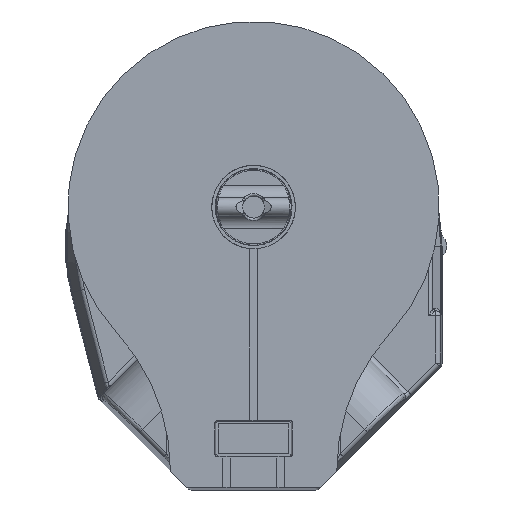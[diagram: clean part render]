
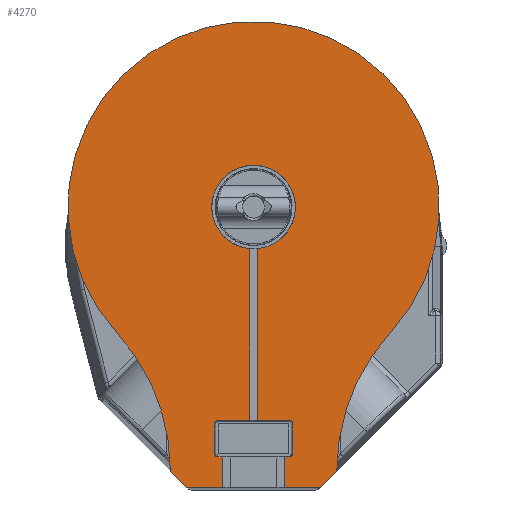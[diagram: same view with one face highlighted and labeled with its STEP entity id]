
A CAD part, top view. The second image highlights one B-rep face of the part: STEP entity #4270.
In plain terms, the highlighted planar face has unit normal (0, 0, 1).
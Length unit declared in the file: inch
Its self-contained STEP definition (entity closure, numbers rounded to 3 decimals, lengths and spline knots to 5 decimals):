
#430=LINE('',#9385,#658);
#441=LINE('',#9429,#669);
#446=LINE('',#9439,#674);
#447=LINE('',#9441,#675);
#448=LINE('',#9443,#676);
#449=LINE('',#9445,#677);
#450=LINE('',#9446,#678);
#451=LINE('',#9447,#679);
#452=LINE('',#9449,#680);
#453=LINE('',#9450,#681);
#454=LINE('',#9452,#682);
#455=LINE('',#9454,#683);
#456=LINE('',#9457,#684);
#457=LINE('',#9459,#685);
#458=LINE('',#9460,#686);
#459=LINE('',#9462,#687);
#658=VECTOR('',#5493,0.40588);
#669=VECTOR('',#5532,0.29606);
#674=VECTOR('',#5539,0.00325);
#675=VECTOR('',#5540,0.29606);
#676=VECTOR('',#5541,0.46638);
#677=VECTOR('',#5542,0.39223);
#678=VECTOR('',#5543,0.06457);
#679=VECTOR('',#5544,0.40588);
#680=VECTOR('',#5545,0.41501);
#681=VECTOR('',#5546,2.21865);
#682=VECTOR('',#5547,2.21869);
#683=VECTOR('',#5548,0.41457);
#684=VECTOR('',#5551,0.06501);
#685=VECTOR('',#5552,0.39223);
#686=VECTOR('',#5553,0.46682);
#687=VECTOR('',#5554,0.00325);
#818=PLANE('',#4680);
#1007=FACE_OUTER_BOUND('',#1242,.T.);
#1242=EDGE_LOOP('',(#3471,#3472,#3473,#3474,#3475,#3476,#3477,#3478,#3479,
#3480,#3481,#3482,#3483,#3484,#3485,#3486,#3487,#3488,#3489,#3490,#3491,
#3492,#3493,#3494));
#1370=ELLIPSE('',#4658,0.03501,0.035);
#1371=ELLIPSE('',#4662,0.03501,0.035);
#1372=ELLIPSE('',#4667,0.03501,0.035);
#1373=ELLIPSE('',#4681,0.03501,0.035);
#1518=CIRCLE('',#4654,0.54123);
#1525=CIRCLE('',#4671,2.40285);
#1529=CIRCLE('',#4677,2.65074);
#1530=CIRCLE('',#4682,2.65074);
#1847=VERTEX_POINT('',#9337);
#1849=VERTEX_POINT('',#9340);
#1852=VERTEX_POINT('',#9348);
#1853=VERTEX_POINT('',#9349);
#1860=VERTEX_POINT('',#9366);
#1861=VERTEX_POINT('',#9367);
#1866=VERTEX_POINT('',#9381);
#1868=VERTEX_POINT('',#9384);
#1870=VERTEX_POINT('',#9390);
#1873=VERTEX_POINT('',#9397);
#1875=VERTEX_POINT('',#9401);
#1880=VERTEX_POINT('',#9415);
#1883=VERTEX_POINT('',#9427);
#1884=VERTEX_POINT('',#9428);
#1888=VERTEX_POINT('',#9438);
#1889=VERTEX_POINT('',#9440);
#1890=VERTEX_POINT('',#9442);
#1891=VERTEX_POINT('',#9444);
#1892=VERTEX_POINT('',#9448);
#1893=VERTEX_POINT('',#9451);
#1894=VERTEX_POINT('',#9453);
#1895=VERTEX_POINT('',#9456);
#1896=VERTEX_POINT('',#9458);
#1897=VERTEX_POINT('',#9461);
#2456=EDGE_CURVE('',#1849,#1847,#1518,.F.);
#2460=EDGE_CURVE('',#1852,#1853,#1370,.T.);
#2468=EDGE_CURVE('',#1860,#1861,#1371,.T.);
#2476=EDGE_CURVE('',#1868,#1866,#430,.T.);
#2479=EDGE_CURVE('',#1870,#1866,#1372,.T.);
#2485=EDGE_CURVE('',#1873,#1875,#1525,.T.);
#2492=EDGE_CURVE('',#1875,#1880,#1529,.T.);
#2496=EDGE_CURVE('',#1883,#1884,#441,.T.);
#2501=EDGE_CURVE('',#1880,#1888,#446,.T.);
#2502=EDGE_CURVE('',#1888,#1889,#447,.T.);
#2503=EDGE_CURVE('',#1889,#1890,#448,.T.);
#2504=EDGE_CURVE('',#1890,#1891,#449,.F.);
#2505=EDGE_CURVE('',#1891,#1853,#450,.F.);
#2506=EDGE_CURVE('',#1852,#1861,#451,.T.);
#2507=EDGE_CURVE('',#1860,#1892,#452,.F.);
#2508=EDGE_CURVE('',#1892,#1849,#453,.T.);
#2509=EDGE_CURVE('',#1847,#1893,#454,.F.);
#2510=EDGE_CURVE('',#1893,#1894,#455,.F.);
#2511=EDGE_CURVE('',#1868,#1894,#1373,.T.);
#2512=EDGE_CURVE('',#1870,#1895,#456,.F.);
#2513=EDGE_CURVE('',#1895,#1896,#457,.T.);
#2514=EDGE_CURVE('',#1896,#1883,#458,.T.);
#2515=EDGE_CURVE('',#1884,#1897,#459,.T.);
#2516=EDGE_CURVE('',#1897,#1873,#1530,.T.);
#3471=ORIENTED_EDGE('',*,*,#2485,.T.);
#3472=ORIENTED_EDGE('',*,*,#2492,.T.);
#3473=ORIENTED_EDGE('',*,*,#2501,.T.);
#3474=ORIENTED_EDGE('',*,*,#2502,.T.);
#3475=ORIENTED_EDGE('',*,*,#2503,.T.);
#3476=ORIENTED_EDGE('',*,*,#2504,.T.);
#3477=ORIENTED_EDGE('',*,*,#2505,.T.);
#3478=ORIENTED_EDGE('',*,*,#2460,.F.);
#3479=ORIENTED_EDGE('',*,*,#2506,.T.);
#3480=ORIENTED_EDGE('',*,*,#2468,.F.);
#3481=ORIENTED_EDGE('',*,*,#2507,.T.);
#3482=ORIENTED_EDGE('',*,*,#2508,.T.);
#3483=ORIENTED_EDGE('',*,*,#2456,.T.);
#3484=ORIENTED_EDGE('',*,*,#2509,.T.);
#3485=ORIENTED_EDGE('',*,*,#2510,.T.);
#3486=ORIENTED_EDGE('',*,*,#2511,.F.);
#3487=ORIENTED_EDGE('',*,*,#2476,.T.);
#3488=ORIENTED_EDGE('',*,*,#2479,.F.);
#3489=ORIENTED_EDGE('',*,*,#2512,.T.);
#3490=ORIENTED_EDGE('',*,*,#2513,.T.);
#3491=ORIENTED_EDGE('',*,*,#2514,.T.);
#3492=ORIENTED_EDGE('',*,*,#2496,.T.);
#3493=ORIENTED_EDGE('',*,*,#2515,.T.);
#3494=ORIENTED_EDGE('',*,*,#2516,.T.);
#4270=ADVANCED_FACE('',(#1007),#818,.F.);
#4654=AXIS2_PLACEMENT_3D('',#9341,#5456,#5457);
#4658=AXIS2_PLACEMENT_3D('',#9350,#5465,#5466);
#4662=AXIS2_PLACEMENT_3D('',#9368,#5479,#5480);
#4667=AXIS2_PLACEMENT_3D('',#9391,#5498,#5499);
#4671=AXIS2_PLACEMENT_3D('',#9403,#5509,#5510);
#4677=AXIS2_PLACEMENT_3D('',#9417,#5524,#5525);
#4680=AXIS2_PLACEMENT_3D('',#9437,#5537,#5538);
#4681=AXIS2_PLACEMENT_3D('',#9455,#5549,#5550);
#4682=AXIS2_PLACEMENT_3D('',#9463,#5555,#5556);
#5456=DIRECTION('center_axis',(0.,0.,
1.));
#5457=DIRECTION('ref_axis',(0.,1.,0.));
#5465=DIRECTION('center_axis',(0.,0.,
1.));
#5466=DIRECTION('ref_axis',(-0.707,-0.707,0.));
#5479=DIRECTION('center_axis',(0.,0.,
1.));
#5480=DIRECTION('ref_axis',(-0.707,0.707,0.));
#5493=DIRECTION('',(0.,-1.,0.));
#5498=DIRECTION('center_axis',(0.,0.,
1.));
#5499=DIRECTION('ref_axis',(0.707,-0.707,0.));
#5509=DIRECTION('center_axis',(0.,0.,
1.));
#5510=DIRECTION('ref_axis',(0.442,0.897,0.));
#5524=DIRECTION('center_axis',(0.,0.,
-1.));
#5525=DIRECTION('ref_axis',(-0.737,-0.675,0.));
#5532=DIRECTION('',(0.707,0.707,0.));
#5537=DIRECTION('center_axis',(0.,0.,
-1.));
#5538=DIRECTION('ref_axis',(0.,-1.,0.));
#5539=DIRECTION('',(0.,-1.,0.));
#5540=DIRECTION('',(0.707,-0.707,0.));
#5541=DIRECTION('',(1.,0.,0.));
#5542=DIRECTION('',(0.,-1.,0.));
#5543=DIRECTION('',(1.,0.,0.));
#5544=DIRECTION('',(0.,1.,0.));
#5545=DIRECTION('',(-1.,0.,0.));
#5546=DIRECTION('',(0.,1.,0.));
#5547=DIRECTION('',(0.,1.,0.));
#5548=DIRECTION('',(-1.,0.,0.));
#5549=DIRECTION('center_axis',(0.,0.,
1.));
#5550=DIRECTION('ref_axis',(0.707,0.707,0.));
#5551=DIRECTION('',(1.,0.,0.));
#5552=DIRECTION('',(0.,-1.,0.));
#5553=DIRECTION('',(1.,0.,0.));
#5554=DIRECTION('',(0.,1.,0.));
#5555=DIRECTION('center_axis',(0.,0.,
-1.));
#5556=DIRECTION('ref_axis',(1.,0.,0.));
#9337=CARTESIAN_POINT('',(0.05044,-0.03887,3.166));
#9340=CARTESIAN_POINT('',(-0.05,-0.03891,3.166));
#9341=CARTESIAN_POINT('Origin',(0.,0.5,3.166));
#9348=CARTESIAN_POINT('',(-0.5,-2.69844,3.166));
#9349=CARTESIAN_POINT('',(-0.46501,-2.73344,3.166));
#9350=CARTESIAN_POINT('Origin',(-0.46499,-2.69843,3.166));
#9366=CARTESIAN_POINT('',(-0.46501,-2.25756,3.166));
#9367=CARTESIAN_POINT('',(-0.5,-2.29256,3.166));
#9368=CARTESIAN_POINT('Origin',(-0.46499,-2.29257,3.166));
#9381=CARTESIAN_POINT('',(0.5,-2.69844,3.166));
#9384=CARTESIAN_POINT('',(0.5,-2.29256,3.166));
#9385=CARTESIAN_POINT('',(0.5,-1.27292,3.166));
#9390=CARTESIAN_POINT('',(0.46501,-2.73344,3.166));
#9391=CARTESIAN_POINT('Origin',(0.46499,-2.69843,3.166));
#9397=CARTESIAN_POINT('',(1.77205,-1.12282,3.166));
#9401=CARTESIAN_POINT('',(-1.77205,-1.12282,3.166));
#9403=CARTESIAN_POINT('Origin',(0.,0.5,3.166));
#9415=CARTESIAN_POINT('',(-1.07616,-2.91306,3.166));
#9417=CARTESIAN_POINT('Origin',(-3.7269,-2.91306,3.166));
#9427=CARTESIAN_POINT('',(0.86682,-3.12566,3.166));
#9428=CARTESIAN_POINT('',(1.07616,-2.91632,3.166));
#9429=CARTESIAN_POINT('',(1.46166,-2.53082,3.166));
#9437=CARTESIAN_POINT('Origin',(0.,-0.28783,
3.166));
#9438=CARTESIAN_POINT('',(-1.07616,-2.91632,3.166));
#9439=CARTESIAN_POINT('',(-1.07616,-1.59842,3.166));
#9440=CARTESIAN_POINT('',(-0.86682,-3.12566,3.166));
#9441=CARTESIAN_POINT('',(-1.36216,-2.63032,3.166));
#9442=CARTESIAN_POINT('',(-0.40044,-3.12566,3.166));
#9443=CARTESIAN_POINT('',(0.42975,-3.12566,3.166));
#9444=CARTESIAN_POINT('',(-0.40044,-2.73344,3.166));
#9445=CARTESIAN_POINT('',(-0.40044,-1.69792,3.166));
#9446=CARTESIAN_POINT('',(0.25,-2.73344,3.166));
#9447=CARTESIAN_POINT('',(-0.5,-1.51042,3.166));
#9448=CARTESIAN_POINT('',(-0.05,-2.25756,3.166));
#9449=CARTESIAN_POINT('',(-0.25,-2.25756,3.166));
#9450=CARTESIAN_POINT('',(-0.05,-1.27292,3.166));
#9451=CARTESIAN_POINT('',(0.05044,-2.25756,3.166));
#9452=CARTESIAN_POINT('',(0.05044,0.10608,3.166));
#9453=CARTESIAN_POINT('',(0.46501,-2.25756,3.166));
#9454=CARTESIAN_POINT('',(-0.25,-2.25756,3.166));
#9455=CARTESIAN_POINT('Origin',(0.46499,-2.29257,3.166));
#9456=CARTESIAN_POINT('',(0.4,-2.73344,3.166));
#9457=CARTESIAN_POINT('',(0.25,-2.73344,3.166));
#9458=CARTESIAN_POINT('',(0.4,-3.12566,3.166));
#9459=CARTESIAN_POINT('',(0.4,-1.51042,3.166));
#9460=CARTESIAN_POINT('',(0.42975,-3.12566,3.166));
#9461=CARTESIAN_POINT('',(1.07616,-2.91306,3.166));
#9462=CARTESIAN_POINT('',(1.07616,-0.96811,3.166));
#9463=CARTESIAN_POINT('Origin',(3.7269,-2.91306,3.166));
